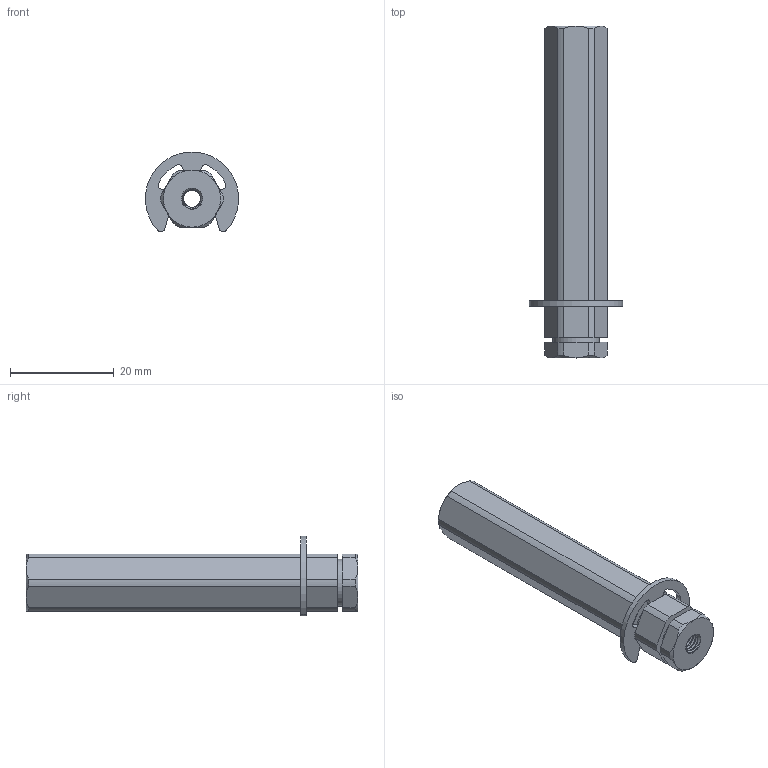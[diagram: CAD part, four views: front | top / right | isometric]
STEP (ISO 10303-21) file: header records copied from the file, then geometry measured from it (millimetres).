
FILE_DESCRIPTION(/* description */ (''),/* implementation_level */ '2;1');
FILE_NAME(/* name */ '2109-4012-0640.step',/* time_stamp */ '2026-06-23T16:32:32-05:00',/* author */ (''),/* organization */ (''),/* preprocessor_version */ 'ST-DEVELOPER v20.1',/* originating_system */ 'Autodesk Translation Framework v15.8.0.0',/* authorisation */ '');
FILE_SCHEMA (('AUTOMOTIVE_DESIGN { 1 0 10303 214 3 1 1 }'));
Length unit declared in the file: millimetre
Products named in the file (2): 2109-4012-0640 (Slot 1); 2824-0002-0091
Assembly tree (1 placements, depth 2):
  2109-4012-0640 (Slot 1)
    2824-0002-0091
Bounding box: 17.97 x 64 x 15.35 mm (x, y, z)
Volume: 6360.3 mm3; surface area: 3474.5 mm2
Topology: 2 solids, 2 shells, 164 faces, 456 edges, 300 vertices
Faces by surface type: cylinder 110, plane 34, cone 16, bspline 4
Full cylindrical faces by diameter (mm): 3.3 x34, 4 x32, 9 x2
Entity records: 14176 total; most frequent: CARTESIAN_POINT 10207, ORIENTED_EDGE 908, DIRECTION 706, EDGE_CURVE 454, VERTEX_POINT 300, AXIS2_PLACEMENT_3D 267, LINE 172, VECTOR 172
